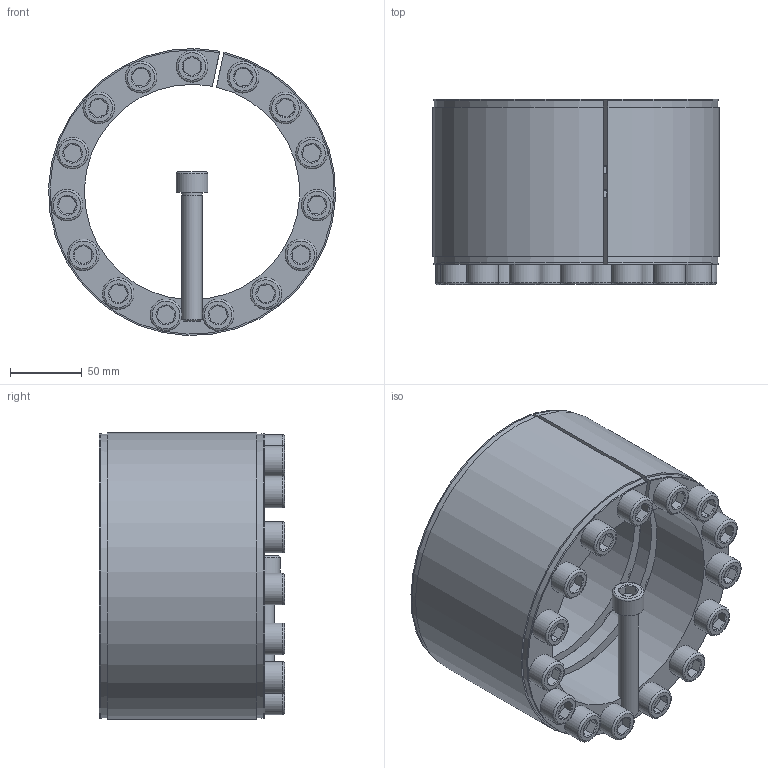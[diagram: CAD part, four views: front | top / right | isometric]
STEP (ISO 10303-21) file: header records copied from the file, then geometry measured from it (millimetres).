
FILE_DESCRIPTION( ( 'Unknown' ), '1' );
FILE_NAME( 'C:/Dokumente und Einstellungen/Sven/Desktop/homepage/cad - homepage/KBS11/KBS 11 - 150 x 200.stp', 'Unknown', ( 'Unknown' ), ( 'Unknown' ), 'XStep 1.0', 'Unknown', ' ' );
FILE_SCHEMA( ( 'automotive_design' ) );
Length unit declared in the file: millimetre
Products named in the file (3): Assem1; KBS 11 - 150 x 200; ISO EN DIN 4762 M14x90
Bounding box: 199.87 x 129 x 199.91 mm (x, y, z)
Volume: 2697557.1 mm3; surface area: 613635.8 mm2
Topology: 18 solids, 18 shells, 530 faces, 1126 edges, 696 vertices
Faces by surface type: plane 212, cylinder 166, cone 120, torus 32
Full cylindrical faces by diameter (mm): 12 x16, 14 x122, 22 x16
Entity records: 3410 total; most frequent: CARTESIAN_POINT 517, DIRECTION 504, ORIENTED_EDGE 358, EDGE_LOOP 236, AXIS2_PLACEMENT_3D 232, EDGE_CURVE 179, VERTEX_POINT 149, FACE_OUTER_BOUND 141
